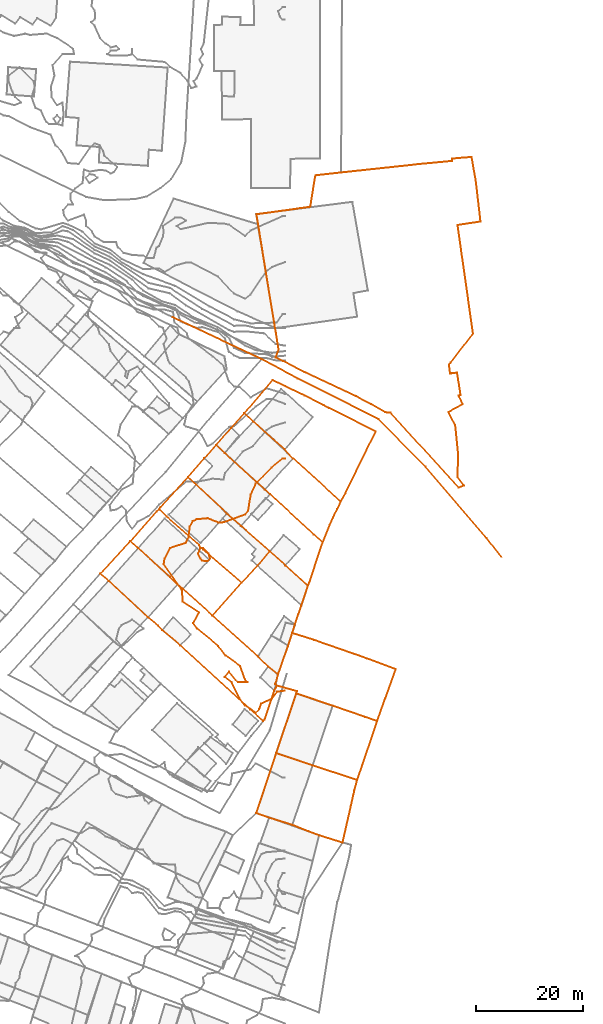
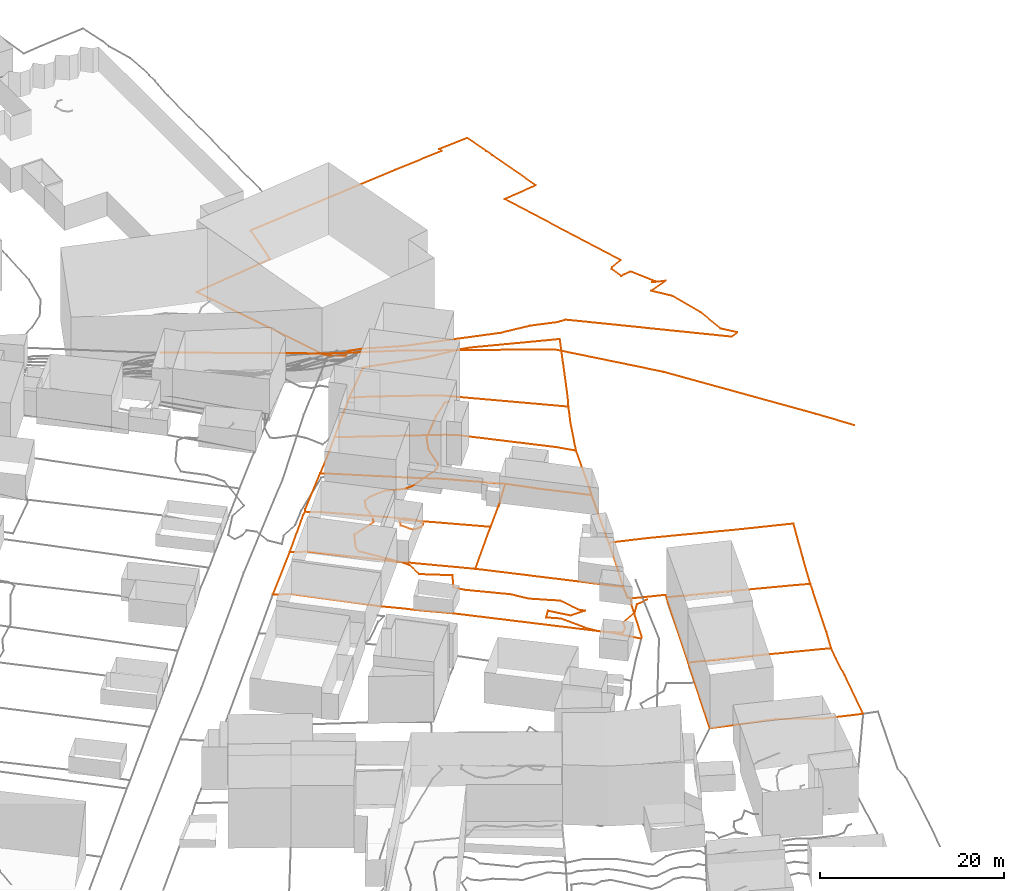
# Not in any storey, part 263 of 419: 15 proxies.
"""IFC2X3 model written with IfcOpenShell, lengths in metres."""

import ifcopenshell
import ifcopenshell.guid

model = None  # the IFC model being written
_history = None  # IfcOwnerHistory: only IFC2X3 demands one
_inside = {}  # id of a spatial element -> (the spatial element, [elements in it])
_under = {}  # id of a project, library or spatial element -> (it, [spatial elements below it])
_declared = {}  # id of a project -> (the project, [libraries it declares])
_typed = {}  # id of a type object -> (the type object, [elements of that type])
_made_of = {}  # id of a material, layer set ... -> (it, [elements and type objects made of it])


def new_model(schema):
    """Start an empty IFC model of exactly this schema.

    Asked for "IFC4X3", IfcOpenShell would pick the latest addendum, in which some entities
    have other attributes; the version numbers below select the first issue.
    IFC2X3 requires an IfcOwnerHistory on every rooted entity: one is made here for all.
    """
    global model, _history
    if schema == "IFC4X3":
        model = ifcopenshell.file(schema_version=(4, 3, 0, 0))
    else:
        model = ifcopenshell.file(schema=schema)
    _inside.clear()
    _under.clear()
    _declared.clear()
    _typed.clear()
    _made_of.clear()
    _history = None
    if model.schema == "IFC2X3":
        org = make("IfcOrganization", Name="unknown")
        user = make(
            "IfcPersonAndOrganization",
            ThePerson=make("IfcPerson", FamilyName="unknown"),
            TheOrganization=org,
        )
        app = make(
            "IfcApplication",
            ApplicationDeveloper=org,
            Version="unknown",
            ApplicationFullName="unknown",
            ApplicationIdentifier="unknown",
        )
        _history = make(
            "IfcOwnerHistory",
            OwningUser=user,
            OwningApplication=app,
            ChangeAction="ADDED",
            CreationDate=0,
        )
    return model


def make(cls, **values):
    """One entity of the class cls with the attributes given. An attribute that is None is left unset."""
    return model.create_entity(
        cls, **{name: value for name, value in values.items() if value is not None}
    )


def entity(cls, *values):
    """Any entity or typed value of the class cls, its attributes in the order of the schema. None: left unset."""
    e = model.create_entity(cls)
    for i, value in enumerate(values):
        if value is not None:
            e[i] = value
    return e


def rooted(cls, **values):
    """An entity with a GlobalId (a new one), such as an element, a storey or a relation."""
    return make(cls, GlobalId=ifcopenshell.guid.new(), OwnerHistory=_history, **values)


def si_unit(unit_type, name, prefix=None):
    """IfcSIUnit, for example si_unit("LENGTHUNIT", "METRE", prefix="MILLI")."""
    return make("IfcSIUnit", UnitType=unit_type, Prefix=prefix, Name=name)


def assignment(units):
    """IfcUnitAssignment: the units of a project."""
    return None if units is None else make("IfcUnitAssignment", Units=units)


def point(xyz):
    """IfcCartesianPoint."""
    return None if xyz is None else make("IfcCartesianPoint", Coordinates=xyz)


def direction(xyz):
    """IfcDirection."""
    return None if xyz is None else make("IfcDirection", DirectionRatios=xyz)


def frame(location, z_axis=None, x_axis=None):
    """IfcAxis2Placement3D, a coordinate frame: its origin and axes. An axis left out is left unset."""
    return make(
        "IfcAxis2Placement3D",
        Location=point(location),
        Axis=direction(z_axis),
        RefDirection=direction(x_axis),
    )


def origin_with_axes():
    """The frame at (0, 0, 0) with the z axis (0, 0, 1) and the x axis (1, 0, 0) written out."""
    return frame((0.0, 0.0, 0.0), z_axis=(0.0, 0.0, 1.0), x_axis=(1.0, 0.0, 0.0))


def place(relative_to, where):
    """IfcLocalPlacement: puts the frame where relative to a parent placement (None: the world)."""
    return make(
        "IfcLocalPlacement", PlacementRelTo=relative_to, RelativePlacement=where
    )


def context(
    kind, dimensions, precision=None, world=None, true_north=None, identifier=None
):
    """IfcGeometricRepresentationContext, for example the 3D "Model" context."""
    return make(
        "IfcGeometricRepresentationContext",
        ContextIdentifier=identifier,
        ContextType=kind,
        CoordinateSpaceDimension=dimensions,
        Precision=precision,
        WorldCoordinateSystem=world,
        TrueNorth=true_north,
    )


def subcontext(parent, identifier, kind, view, scale=None):
    """IfcGeometricRepresentationSubContext, for example "Body" below "Model"."""
    return make(
        "IfcGeometricRepresentationSubContext",
        ContextIdentifier=identifier,
        ContextType=kind,
        ParentContext=parent,
        TargetScale=scale,
        TargetView=view,
    )


def project(units=None, contexts=None):
    """IfcProject with its units and contexts."""
    return rooted(
        "IfcProject",
        Name="project",
        RepresentationContexts=contexts,
        UnitsInContext=assignment(units),
    )


def shape(context_of_items, identifier, shape_type, items):
    """IfcShapeRepresentation: the items that make up one representation, for example the "Body"."""
    return make(
        "IfcShapeRepresentation",
        ContextOfItems=context_of_items,
        RepresentationIdentifier=identifier,
        RepresentationType=shape_type,
        Items=items,
    )


def made_of(thing, what):
    """Note that an element or type object is made of a material, layer set ...; save() writes the relation."""
    if what is not None:
        _made_of.setdefault(what.id(), (what, []))[1].append(thing)
    return thing


def element(
    cls,
    number,
    at=None,
    inside=None,
    cuts=None,
    type_object=None,
    material=None,
    context=None,
    identifier="Body",
    shape_type=None,
    held_by="IfcProductDefinitionShape",
    body=None,
    shapes=None,
    **own,
):
    """One element of the class cls, such as IfcWall. Its Tag is "e" and its number.

    at: its placement. inside: the storey or other place that contains it. cuts: it is an
    opening in that element (IfcRelVoidsElement). A single representation is given by context,
    identifier, shape_type and body (its items); several are given by shapes. held_by: the class
    of the entity that holds the representations. save() writes the other relations.
    """
    e = rooted(cls, Tag="e%d" % number, ObjectPlacement=at, **own)
    if body is not None:
        shapes = [shape(context, identifier, shape_type, body)]
    if shapes is not None:
        e.Representation = make(held_by, Representations=shapes)
    if inside is not None:
        _inside.setdefault(inside.id(), (inside, []))[1].append(e)
    if cuts is not None:
        rooted(
            "IfcRelVoidsElement", RelatingBuildingElement=cuts, RelatedOpeningElement=e
        )
    if type_object is not None:
        _typed.setdefault(type_object.id(), (type_object, []))[1].append(e)
    return made_of(e, material)


def aggregate(whole, parts):
    """IfcRelAggregates: a whole, such as a stair, and the parts it consists of."""
    return rooted("IfcRelAggregates", RelatingObject=whole, RelatedObjects=parts)


def save(model, path):
    """Write the relations noted so far, then the file.

    IfcRelAggregates (storeys below a building ...), IfcRelContainedInSpatialStructure (elements
    in a storey), IfcRelDefinesByType, IfcRelAssociatesMaterial and IfcRelDeclares: one each for
    every whole, place, type object, material and project.
    """
    for whole, parts in _under.values():
        aggregate(whole, parts)
    for where, things in _inside.values():
        rooted(
            "IfcRelContainedInSpatialStructure",
            RelatedElements=things,
            RelatingStructure=where,
        )
    for kind, things in _typed.values():
        rooted("IfcRelDefinesByType", RelatedObjects=things, RelatingType=kind)
    for what, things in _made_of.values():
        rooted("IfcRelAssociatesMaterial", RelatedObjects=things, RelatingMaterial=what)
    for by, libraries in _declared.values():
        rooted("IfcRelDeclares", RelatingContext=by, RelatedDefinitions=libraries)
    model.write(path)


model = new_model("IFC2X3")

# Units and contexts
model_context = context("Model", 3, precision=1e-05, world=origin_with_axes())
body_context = subcontext(model_context, "Body", "Model", "MODEL_VIEW")
ifc_project = project(units=[si_unit("AREAUNIT", "SQUARE_METRE"), si_unit("LENGTHUNIT", "METRE")], contexts=[model_context])

# Proxies
proxy_1_placement = place(None, frame((972.1920204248, 311.0976909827, 76.7), z_axis=(0.0, 0.0, 1.0), x_axis=(1.0, 0.0, 0.0)))
element("IfcBuildingElementProxy", 1, at=proxy_1_placement, Name="Route 224", ObjectType="NOTDEFINED", context=body_context, shape_type="GeometricCurveSet", body=[
    entity("IfcGeometricCurveSet", [entity("IfcPolyline", [entity("IfcCartesianPoint", [44.7000000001, -36.9000000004, -2.8]), entity("IfcCartesianPoint", [41.9, -33.2999999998, -2.5]), entity("IfcCartesianPoint", [30.5, -20.0, -1.0]), entity("IfcCartesianPoint", [21.8, -11.2000000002, -0.3]), entity("IfcCartesianPoint", [6.7000000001, -3.6000000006, 0.2]), entity("IfcCartesianPoint", [0.0, 0.0, 0.0])])]),
])
proxy_2_placement = place(None, frame((955.5920204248, 318.8976909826, 77.9), z_axis=(0.0, 0.0, 1.0), x_axis=(1.0, 0.0, 0.0)))
element("IfcBuildingElementProxy", 2, at=proxy_2_placement, Name="Route 268", ObjectType="NOTDEFINED", context=body_context, shape_type="GeometricCurveSet", body=[
    entity("IfcGeometricCurveSet", [entity("IfcPolyline", [entity("IfcCartesianPoint", [16.6, -7.7999999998, -1.2]), entity("IfcCartesianPoint", [0.0, 0.0, 0.0])])]),
])
proxy_3_placement = place(None, frame((947.7120204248, 277.1576909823, 79.5075850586), z_axis=(0.0, 0.0, 1.0), x_axis=(1.0, 0.0, 0.0)))
element("IfcBuildingElementProxy", 3, at=proxy_3_placement, Name="Cadastre 166", ObjectType="NOTDEFINED", context=body_context, shape_type="GeometricCurveSet", body=[
    entity("IfcGeometricCurveSet", [entity("IfcPolyline", [entity("IfcCartesianPoint", [15.29, -13.8099999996, 0.796615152]), entity("IfcCartesianPoint", [9.8100000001, -8.8999999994, 0.555414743]), entity("IfcCartesianPoint", [8.79, -8.0699999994, 0.4903339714]), entity("IfcCartesianPoint", [7.42, -6.6799999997, 0.4642153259]), entity("IfcCartesianPoint", [1.4400000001, -1.2699999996, 0.3111032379]), entity("IfcCartesianPoint", [0.0, 0.0, 0.0]), entity("IfcCartesianPoint", [4.87, 5.5200000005, -0.1415411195]), entity("IfcCartesianPoint", [5.37, 5.9500000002, -0.1458789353]), entity("IfcCartesianPoint", [6.73, 4.6299999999, 0.1211494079]), entity("IfcCartesianPoint", [12.79, -0.6899999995, 0.4909648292]), entity("IfcCartesianPoint", [13.61, -1.5599999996, 0.4536365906]), entity("IfcCartesianPoint", [20.73, -7.7199999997, 0.7669145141]), entity("IfcCartesianPoint", [15.29, -13.8099999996, 0.796615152])])]),
])
proxy_4_placement = place(None, frame((942.1020204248, 271.1076909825, 79.5253414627), z_axis=(0.0, 0.0, 1.0), x_axis=(1.0, 0.0, 0.0)))
element("IfcBuildingElementProxy", 4, at=proxy_4_placement, Name="Cadastre 167", ObjectType="NOTDEFINED", context=body_context, shape_type="GeometricCurveSet", body=[
    entity("IfcGeometricCurveSet", [entity("IfcPolyline", [entity("IfcCartesianPoint", [30.38, -27.4399999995, 0.1282615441]), entity("IfcCartesianPoint", [27.91, -25.25, 0.4569980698]), entity("IfcCartesianPoint", [14.9300000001, -13.3300000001, 0.3377547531]), entity("IfcCartesianPoint", [11.58, -10.4799999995, 0.2612876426]), entity("IfcCartesianPoint", [10.8200000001, -9.6899999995, 0.2139614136]), entity("IfcCartesianPoint", [8.86, -8.0700000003, 0.2031165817]), entity("IfcCartesianPoint", [1.61, -1.3200000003, 0.2596187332]), entity("IfcCartesianPoint", [0.0, 0.0, 0.0]), entity("IfcCartesianPoint", [5.61, 6.0499999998, -0.0177564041]), entity("IfcCartesianPoint", [7.05, 4.7800000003, 0.2933468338]), entity("IfcCartesianPoint", [13.03, -0.6299999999, 0.4464589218]), entity("IfcCartesianPoint", [14.4, -2.0199999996, 0.4725775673]), entity("IfcCartesianPoint", [15.42, -2.8499999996, 0.5376583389]), entity("IfcCartesianPoint", [20.9, -7.7599999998, 0.7788587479]), entity("IfcCartesianPoint", [29.38, -15.4399999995, 0.7977503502]), entity("IfcCartesianPoint", [31.29, -17.29, 0.8473389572]), entity("IfcCartesianPoint", [33.13, -18.7800000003, 0.7723984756]), entity("IfcCartesianPoint", [32.63, -20.5700000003, 0.6258803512]), entity("IfcCartesianPoint", [32.91, -20.8200000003, 0.5724326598]), entity("IfcCartesianPoint", [32.4400000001, -21.7699999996, 0.4358576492]), entity("IfcCartesianPoint", [30.62, -27.1200000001, 0.147889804]), entity("IfcCartesianPoint", [30.38, -27.4399999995, 0.1282615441])])]),
])
proxy_5_placement = place(None, frame((953.0820204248, 283.1076909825, 79.3617061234), z_axis=(0.0, 0.0, 1.0), x_axis=(1.0, 0.0, 0.0)))
element("IfcBuildingElementProxy", 5, at=proxy_5_placement, Name="Cadastre 177", ObjectType="NOTDEFINED", context=body_context, shape_type="GeometricCurveSet", body=[
    entity("IfcGeometricCurveSet", [entity("IfcPolyline", [entity("IfcCartesianPoint", [15.36, -13.6699999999, 0.9127934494]), entity("IfcCartesianPoint", [8.24, -7.5099999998, 0.5995155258]), entity("IfcCartesianPoint", [7.42, -6.6399999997, 0.6368437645]), entity("IfcCartesianPoint", [1.36, -1.3200000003, 0.2670283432]), entity("IfcCartesianPoint", [0.0, 0.0, 0.0]), entity("IfcCartesianPoint", [0.28, 0.4699999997, -0.0206643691]), entity("IfcCartesianPoint", [5.36, 6.0200000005, -0.4228511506]), entity("IfcCartesianPoint", [6.88, 4.6100000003, -0.2106864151]), entity("IfcCartesianPoint", [12.62, -0.7699999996, 0.5686920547]), entity("IfcCartesianPoint", [15.24, -3.0800000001, 0.9086968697]), entity("IfcCartesianPoint", [20.6, -7.7999999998, 1.2219908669]), entity("IfcCartesianPoint", [18.3200000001, -10.5, 1.1131959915]), entity("IfcCartesianPoint", [15.36, -13.6699999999, 0.9127934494])])]),
])
proxy_6_placement = place(None, frame((958.4420204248, 289.127690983, 78.9388549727), z_axis=(0.0, 0.0, 1.0), x_axis=(1.0, 0.0, 0.0)))
element("IfcBuildingElementProxy", 6, at=proxy_6_placement, Name="Cadastre 178", ObjectType="NOTDEFINED", context=body_context, shape_type="GeometricCurveSet", body=[
    entity("IfcGeometricCurveSet", [entity("IfcPolyline", [entity("IfcCartesianPoint", [15.24, -13.8200000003, 1.6448420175]), entity("IfcCartesianPoint", [9.88, -9.1000000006, 1.3315480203]), entity("IfcCartesianPoint", [7.26, -6.79, 0.9915432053]), entity("IfcCartesianPoint", [1.52, -1.4100000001, 0.2121647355]), entity("IfcCartesianPoint", [0.0, 0.0, 0.0]), entity("IfcCartesianPoint", [3.0600000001, 3.5, -0.575782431]), entity("IfcCartesianPoint", [5.24, 5.9399999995, -0.6456560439]), entity("IfcCartesianPoint", [6.8, 4.5, -0.2743572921]), entity("IfcCartesianPoint", [14.3100000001, -2.3000000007, 1.4936708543]), entity("IfcCartesianPoint", [15.29, -3.21, 1.6711824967]), entity("IfcCartesianPoint", [23.4500000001, -10.6699999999, 1.7309466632]), entity("IfcCartesianPoint", [25.0900000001, -12.1600000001, 1.5883475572]), entity("IfcCartesianPoint", [22.74, -19.2600000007, 1.5764442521]), entity("IfcCartesianPoint", [22.3500000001, -20.3000000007, 1.5925441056]), entity("IfcCartesianPoint", [18.16, -16.46, 1.5438469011]), entity("IfcCartesianPoint", [15.24, -13.8200000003, 1.6448420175])])]),
])
proxy_7_placement = place(None, frame((963.6820204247, 295.0676909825, 78.2931989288), z_axis=(0.0, 0.0, 1.0), x_axis=(1.0, 0.0, 0.0)))
element("IfcBuildingElementProxy", 7, at=proxy_7_placement, Name="Cadastre 179", ObjectType="NOTDEFINED", context=body_context, shape_type="GeometricCurveSet", body=[
    entity("IfcGeometricCurveSet", [entity("IfcPolyline", [entity("IfcCartesianPoint", [19.8500000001, -18.0999999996, 2.2340036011]), entity("IfcCartesianPoint", [18.2100000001, -16.6099999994, 2.3766027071]), entity("IfcCartesianPoint", [10.05, -9.1499999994, 2.3168385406]), entity("IfcCartesianPoint", [9.0700000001, -8.2400000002, 2.1393268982]), entity("IfcCartesianPoint", [1.5600000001, -1.4399999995, 0.3712987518]), entity("IfcCartesianPoint", [0.0, 0.0, 0.0]), entity("IfcCartesianPoint", [2.8100000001, 3.2199999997, -0.1331792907]), entity("IfcCartesianPoint", [5.28, 5.9500000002, -0.2279827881]), entity("IfcCartesianPoint", [6.89, 4.4300000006, 0.2819823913]), entity("IfcCartesianPoint", [12.76, -0.7699999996, 1.5498026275]), entity("IfcCartesianPoint", [14.3400000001, -2.4500000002, 1.7759996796]), entity("IfcCartesianPoint", [23.25, -10.5300000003, 2.2910027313]), entity("IfcCartesianPoint", [22.5800000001, -11.8899999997, 2.5483995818]), entity("IfcCartesianPoint", [21.78, -13.4799999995, 2.7587030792]), entity("IfcCartesianPoint", [21.17, -14.8499999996, 2.7195989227]), entity("IfcCartesianPoint", [19.8500000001, -18.0999999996, 2.2340036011])])]),
])
proxy_8_placement = place(None, frame((963.0020204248, 263.3476909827, 80.3042002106), z_axis=(0.0, 0.0, 1.0), x_axis=(1.0, 0.0, 0.0)))
element("IfcBuildingElementProxy", 8, at=proxy_8_placement, Name="Cadastre 180", ObjectType="NOTDEFINED", context=body_context, shape_type="GeometricCurveSet", body=[
    entity("IfcGeometricCurveSet", [entity("IfcPolyline", [entity("IfcCartesianPoint", [12.23, -11.0200000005, -0.0064602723]), entity("IfcCartesianPoint", [10.39, -9.5300000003, 0.0684802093]), entity("IfcCartesianPoint", [8.48, -7.6799999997, 0.0188916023]), entity("IfcCartesianPoint", [0.0, 0.0, 0.0]), entity("IfcCartesianPoint", [5.4399999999, 6.0899999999, -0.0297006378]), entity("IfcCartesianPoint", [8.4, 9.2599999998, 0.1707019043]), entity("IfcCartesianPoint", [10.6799999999, 11.96, 0.2794967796]), entity("IfcCartesianPoint", [13.6, 9.3200000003, 0.1785016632]), entity("IfcCartesianPoint", [17.79, 5.4799999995, 0.2271988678]), entity("IfcCartesianPoint", [16.58, 1.8799999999, 0.255797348]), entity("IfcCartesianPoint", [16.01, 0.21, 0.2641991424]), entity("IfcCartesianPoint", [15.36, -1.7400000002, 0.3074023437]), entity("IfcCartesianPoint", [14.87, -3.2800000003, 0.2460002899]), entity("IfcCartesianPoint", [14.09, -5.6699999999, 0.2129979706]), entity("IfcCartesianPoint", [12.23, -11.0200000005, -0.0064602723])])]),
])
proxy_9_placement = place(None, frame((971.1720204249, 226.5276909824, 78.6318458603), z_axis=(0.0, 0.0, 1.0), x_axis=(1.0, 0.0, 0.0)))
element("IfcBuildingElementProxy", 9, at=proxy_9_placement, Name="Cadastre 182", ObjectType="NOTDEFINED", context=body_context, shape_type="GeometricCurveSet", body=[
    entity("IfcGeometricCurveSet", [entity("IfcPolyline", [entity("IfcCartesianPoint", [18.7799999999, 6.1500000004, 0.3121552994]), entity("IfcCartesianPoint", [18.2799999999, 4.2400000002, 0.2592537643]), entity("IfcCartesianPoint", [17.61, 1.1800000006, 0.1536517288]), entity("IfcCartesianPoint", [16.08, -5.5099999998, -0.3746461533]), entity("IfcCartesianPoint", [11.71, -4.1399999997, -0.3221482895]), entity("IfcCartesianPoint", [9.6799999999, -3.3799999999, -0.0443462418]), entity("IfcCartesianPoint", [6.75, -2.21, 0.1585569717]), entity("IfcCartesianPoint", [2.3799999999, -0.8599999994, 0.0809366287]), entity("IfcCartesianPoint", [0.0, 0.0, 0.0]), entity("IfcCartesianPoint", [3.75, 11.1500000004, 0.6327293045]), entity("IfcCartesianPoint", [10.5299999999, 8.8900000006, 0.5197557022]), entity("IfcCartesianPoint", [18.7799999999, 6.1500000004, 0.3121552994])])]),
])
proxy_10_placement = place(None, frame((974.9220204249, 237.6776909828, 79.2645751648), z_axis=(0.0, 0.0, 1.0), x_axis=(1.0, 0.0, 0.0)))
element("IfcBuildingElementProxy", 10, at=proxy_10_placement, Name="Cadastre 184", ObjectType="NOTDEFINED", context=body_context, shape_type="GeometricCurveSet", body=[
    entity("IfcGeometricCurveSet", [entity("IfcPolyline", [entity("IfcCartesianPoint", [15.99, -2.3100000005, -0.1169736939]), entity("IfcCartesianPoint", [15.0299999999, -5.0, -0.3205740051]), entity("IfcCartesianPoint", [6.7799999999, -2.2599999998, -0.1129736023]), entity("IfcCartesianPoint", [0.0, 0.0, 0.0]), entity("IfcCartesianPoint", [3.7, 11.1499999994, 0.6055243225]), entity("IfcCartesianPoint", [10.48, 8.8499999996, 0.4445217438]), entity("IfcCartesianPoint", [16.5199999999, 6.7699999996, 0.3114246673]), entity("IfcCartesianPoint", [18.7699999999, 5.9900000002, 0.2397272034]), entity("IfcCartesianPoint", [15.99, -2.3100000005, -0.1169736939])])]),
])
proxy_11_placement = place(None, frame((974.7320204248, 250.5376909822, 80.1512218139), z_axis=(0.0, 0.0, 1.0), x_axis=(1.0, 0.0, 0.0)))
element("IfcBuildingElementProxy", 11, at=proxy_11_placement, Name="Cadastre 185", ObjectType="NOTDEFINED", context=body_context, shape_type="GeometricCurveSet", body=[
    entity("IfcGeometricCurveSet", [entity("IfcPolyline", [entity("IfcCartesianPoint", [18.96, -6.8699999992, -0.6469194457]), entity("IfcCartesianPoint", [16.71, -6.0899999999, -0.5752219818]), entity("IfcCartesianPoint", [10.67, -4.0099999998, -0.4421249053]), entity("IfcCartesianPoint", [3.89, -1.71, -0.2811223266]), entity("IfcCartesianPoint", [4.03, -1.3099999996, -0.2531193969]), entity("IfcCartesianPoint", [0.28, -0.25, -0.0534476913]), entity("IfcCartesianPoint", [0.0, 0.0, 0.0]), entity("IfcCartesianPoint", [0.5, 1.79, 0.1465181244]), entity("IfcCartesianPoint", [2.36, 7.1400000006, 0.3659763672]), entity("IfcCartesianPoint", [3.14, 9.5300000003, 0.3989786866]), entity("IfcCartesianPoint", [7.1900000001, 8.2600000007, 0.3587803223]), entity("IfcCartesianPoint", [14.73, 5.6100000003, 0.2412800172]), entity("IfcCartesianPoint", [17.14, 4.79, 0.1915745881]), entity("IfcCartesianPoint", [22.4300000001, 2.8000000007, 0.2773804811]), entity("IfcCartesianPoint", [20.47, -2.6299999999, -0.3455253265]), entity("IfcCartesianPoint", [18.96, -6.8699999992, -0.6469194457])])]),
])
proxy_12_placement = place(None, frame((968.9620204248, 301.0176909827, 78.0652161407), z_axis=(0.0, 0.0, 1.0), x_axis=(1.0, 0.0, 0.0)))
element("IfcBuildingElementProxy", 12, at=proxy_12_placement, Name="Cadastre 186", ObjectType="NOTDEFINED", context=body_context, shape_type="GeometricCurveSet", body=[
    entity("IfcGeometricCurveSet", [entity("IfcPolyline", [entity("IfcCartesianPoint", [17.97, -16.4800000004, 2.5189855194]), entity("IfcCartesianPoint", [9.0600000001, -8.4000000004, 2.0039824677]), entity("IfcCartesianPoint", [7.48, -6.7199999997, 1.7777854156]), entity("IfcCartesianPoint", [1.61, -1.5199999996, 0.5099651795]), entity("IfcCartesianPoint", [0.0, 0.0, 0.0]), entity("IfcCartesianPoint", [5.25, 6.1500000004, -1.5516218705]), entity("IfcCartesianPoint", [11.23, 3.3099999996, -0.6660157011]), entity("IfcCartesianPoint", [14.73, 1.4900000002, 0.3709836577]), entity("IfcCartesianPoint", [15.8, 0.9699999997, 0.5495833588]), entity("IfcCartesianPoint", [24.4600000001, -3.3799999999, 1.2763820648]), entity("IfcCartesianPoint", [18.8200000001, -14.8700000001, 2.5222853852]), entity("IfcCartesianPoint", [17.97, -16.4800000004, 2.5189855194])])]),
])
proxy_13_placement = place(None, frame((971.2320204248, 338.0776909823, 68.8335834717), z_axis=(0.0, 0.0, 1.0), x_axis=(1.0, 0.0, 0.0)))
element("IfcBuildingElementProxy", 13, at=proxy_13_placement, Name="Cadastre 187", ObjectType="NOTDEFINED", context=body_context, shape_type="GeometricCurveSet", body=[
    entity("IfcGeometricCurveSet", [entity("IfcPolyline", [entity("IfcCartesianPoint", [40.33, -22.1999999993, 3.5688142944]), entity("IfcCartesianPoint", [36.15, -27.6199999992, 7.3996166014]), entity("IfcCartesianPoint", [35.86, -28.0, 7.461216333]), entity("IfcCartesianPoint", [36.0699999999, -29.6699999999, 7.4970183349]), entity("IfcCartesianPoint", [36.47, -29.6099999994, 7.5006181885]), entity("IfcCartesianPoint", [37.37, -29.4799999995, 7.5084178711]), entity("IfcCartesianPoint", [38.02, -33.6699999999, 8.5213171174]), entity("IfcCartesianPoint", [37.66, -33.7299999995, 8.5544170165]), entity("IfcCartesianPoint", [38.39, -35.3799999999, 9.4924159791]), entity("IfcCartesianPoint", [35.75, -36.8199999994, 9.9646159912]), entity("IfcCartesianPoint", [37.02, -39.2999999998, 10.3256163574]), entity("IfcCartesianPoint", [37.54, -44.3999999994, 11.0900163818]), entity("IfcCartesianPoint", [37.48, -48.9199999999, 11.6884175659]), entity("IfcCartesianPoint", [38.65, -50.5, 11.7346158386]), entity("IfcCartesianPoint", [37.6900000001, -50.8999999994, 11.7386166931]), entity("IfcCartesianPoint", [24.95, -36.9299999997, 9.9789165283]), entity("IfcCartesianPoint", [24.35, -36.9099999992, 9.9763164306]), entity("IfcCartesianPoint", [23.95, -36.8599999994, 9.9698161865]), entity("IfcCartesianPoint", [21.36, -35.3699999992, 9.4866159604]), entity("IfcCartesianPoint", [18.51, -33.8999999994, 8.6496166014]), entity("IfcCartesianPoint", [8.97, -29.3999999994, 7.5132176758]), entity("IfcCartesianPoint", [4.95, -27.3399999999, 7.3212169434]), entity("IfcCartesianPoint", [3.53, -26.6699999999, 7.1140259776]), entity("IfcCartesianPoint", [4.12, -25.2399999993, 5.3926718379]), entity("IfcCartesianPoint", [3.63, -22.1099999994, 3.7029927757]), entity("IfcCartesianPoint", [3.46, -21.2199999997, 3.44695672]), entity("IfcCartesianPoint", [0.0, 0.0, 0.0]), entity("IfcCartesianPoint", [10.02, 1.4000000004, 0.0192168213]), entity("IfcCartesianPoint", [10.96, 7.2600000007, -0.0747815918]), entity("IfcCartesianPoint", [15.79, 7.79, -0.0688839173]), entity("IfcCartesianPoint", [30.33, 9.3600000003, -0.0739814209]), entity("IfcCartesianPoint", [36.46, 9.9400000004, -0.0797826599]), entity("IfcCartesianPoint", [36.4, 10.3800000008, -0.0829833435]), entity("IfcCartesianPoint", [40.08, 10.6800000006, -0.0799827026]), entity("IfcCartesianPoint", [40.63, 7.5200000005, -0.0715824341]), entity("IfcCartesianPoint", [40.8199999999, 6.5100000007, -0.0897847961]), entity("IfcCartesianPoint", [41.74, -1.3399999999, 0.3390154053]), entity("IfcCartesianPoint", [37.46, -1.9899999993, 0.4136164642]), entity("IfcCartesianPoint", [40.33, -22.1999999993, 3.5688142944])])]),
])
proxy_14_placement = place(None, frame((960.3420299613, 274.8976909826, 80.0), z_axis=(0.0, 0.0, 1.0), x_axis=(1.0, 0.0, 0.0)))
element("IfcBuildingElementProxy", 14, at=proxy_14_placement, Name="Contour 80.0 m", ObjectType="NOTDEFINED", context=body_context, shape_type="GeometricCurveSet", body=[
    entity("IfcGeometricCurveSet", [entity("IfcPolyline", [entity("IfcCartesianPoint", [1.7499904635, -1.39996948, 0.0]), entity("IfcCartesianPoint", [2.2499654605, -1.0, 0.0]), entity("IfcCartesianPoint", [1.9721844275, 0.0, 0.0]), entity("IfcCartesianPoint", [0.9500209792, 1.0, 0.0]), entity("IfcCartesianPoint", [0.4165723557, 1.0, 0.0]), entity("IfcCartesianPoint", [0.0, 0.0, 0.0]), entity("IfcCartesianPoint", [0.5146884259, -1.0, 0.0]), entity("IfcCartesianPoint", [0.7499904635, -1.3636426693, 0.0]), entity("IfcCartesianPoint", [1.7499904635, -1.39996948, 0.0])])]),
])
proxy_15_placement = place(None, frame((953.9491321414, 272.8976909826, 80.0), z_axis=(0.0, 0.0, 1.0), x_axis=(1.0, 0.0, 0.0)))
element("IfcBuildingElementProxy", 15, at=proxy_15_placement, Name="Contour 80.0 m", ObjectType="NOTDEFINED", context=body_context, shape_type="GeometricCurveSet", body=[
    entity("IfcGeometricCurveSet", [entity("IfcPolyline", [entity("IfcCartesianPoint", [22.6428882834, -23.5263221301, 0.0]), entity("IfcCartesianPoint", [21.1428882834, -23.7646979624, 0.0]), entity("IfcCartesianPoint", [20.1428882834, -25.0000111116, 0.0]), entity("IfcCartesianPoint", [18.1429132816, -26.0, 0.0]), entity("IfcCartesianPoint", [17.8094701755, -27.0, 0.0]), entity("IfcCartesianPoint", [17.1428882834, -27.6665818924, 0.0]), entity("IfcCartesianPoint", [15.1428882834, -26.2999923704, 0.0]), entity("IfcCartesianPoint", [14.1428832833, -25.0, 0.0]), entity("IfcCartesianPoint", [12.6428632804, -22.0, 0.0]), entity("IfcCartesianPoint", [11.342918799, -21.0, 0.0]), entity("IfcCartesianPoint", [12.1428882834, -19.9999928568, 0.0]), entity("IfcCartesianPoint", [13.8094701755, -22.0, 0.0]), entity("IfcCartesianPoint", [15.642838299, -22.0, 0.0]), entity("IfcCartesianPoint", [15.1428882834, -21.5000499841, 0.0]), entity("IfcCartesianPoint", [14.2540182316, -19.0, 0.0]), entity("IfcCartesianPoint", [11.5178823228, -17.0, 0.0]), entity("IfcCartesianPoint", [10.1428882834, -15.2307647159, 0.0]), entity("IfcCartesianPoint", [6.23381629, -12.0, 0.0]), entity("IfcCartesianPoint", [5.4761792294, -11.0, 0.0]), entity("IfcCartesianPoint", [6.542857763, -9.0, 0.0]), entity("IfcCartesianPoint", [3.5065309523, -7.0, 0.0]), entity("IfcCartesianPoint", [3.4428806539, -5.0, 0.0]), entity("IfcCartesianPoint", [3.1428882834, -4.39996948, 0.0]), entity("IfcCartesianPoint", [0.0, 0.0, 0.0]), entity("IfcCartesianPoint", [0.1428382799, 1.0, 0.0]), entity("IfcCartesianPoint", [1.1428549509, 3.0, 0.0]), entity("IfcCartesianPoint", [4.1428882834, 4.0000249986, 0.0]), entity("IfcCartesianPoint", [4.5873233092, 5.0, 0.0]), entity("IfcCartesianPoint", [4.8572207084, 7.0, 0.0]), entity("IfcCartesianPoint", [5.392935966, 8.0, 0.0]), entity("IfcCartesianPoint", [6.1428882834, 8.3749761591, 0.0]), entity("IfcCartesianPoint", [8.1428882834, 8.5454293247, 0.0]), entity("IfcCartesianPoint", [10.1428882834, 7.7894715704, 0.0]), entity("IfcCartesianPoint", [11.1428882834, 7.8000305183, 0.0]), entity("IfcCartesianPoint", [15.1428882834, 9.2666700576, 0.0]), entity("IfcCartesianPoint", [15.721831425, 10.0, 0.0]), entity("IfcCartesianPoint", [16.2095685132, 13.0, 0.0]), entity("IfcCartesianPoint", [17.1428816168, 15.0, 0.0]), entity("IfcCartesianPoint", [20.0519602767, 18.0, 0.0]), entity("IfcCartesianPoint", [22.1428882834, 19.7142779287, 0.0]), entity("IfcCartesianPoint", [22.6428882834, 19.7142779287, 0.0])])]),
])

save(model, "model.ifc")
